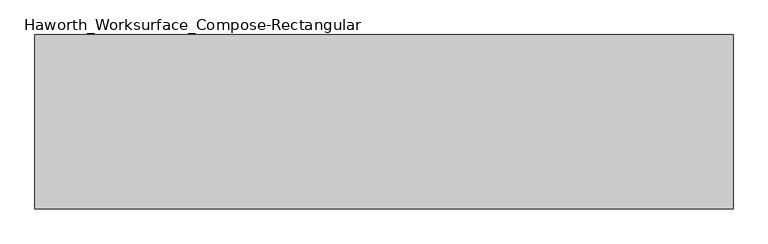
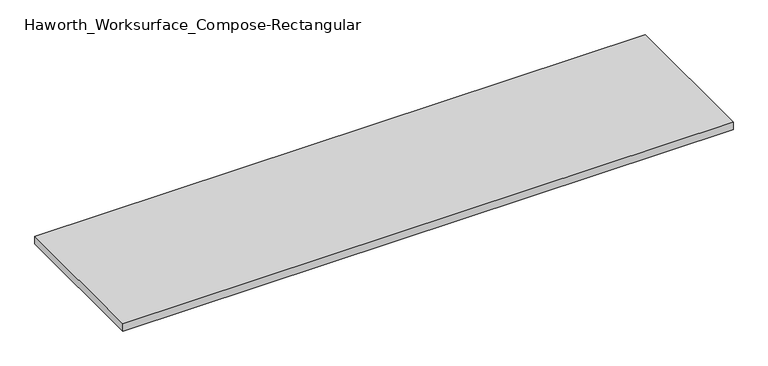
"""IFC4 building model written with IfcOpenShell, lengths in millimetres: furniture geometry, Haworth_Worksurface_Compose-Rectangular : 24'' x 96''."""

from ifc_helpers import new_model, si_unit, frame, origin, place, context, project, spatial, polyline, outline, extrude, source, transform, mapped, element, save


def haworth_worksurface_compose_rectangular_cbff0102(model_context):
    return source(origin(), model_context, "Body", "SweptSolid", [
        extrude(outline(polyline([(1219.2, -304.8), (-1219.2, -304.8), (-1219.2, 304.8), (1219.2, 304.8), (1219.2, -304.8)])), frame((0.0, 0.0, 706.4375), z_axis=(0.0, 0.0, 1.0), x_axis=(1.0, 0.0, 0.0)), (0.0, 0.0, 1.0), 30.1625),
    ])


if __name__ == "__main__":
    model = new_model("IFC4")
    model_context = context("Model", 3, world=origin())
    ifc_project = project(units=[si_unit("LENGTHUNIT", "METRE", prefix="MILLI")], contexts=[model_context])
    site = spatial("IfcSite", under=ifc_project)
    building = spatial("IfcBuilding", under=site)
    placement = place(None, origin())
    haworth_worksurface_compose_rectangular_shape = haworth_worksurface_compose_rectangular_cbff0102(model_context)
    element("IfcFurniture", 1, ObjectType="Haworth_Worksurface_Compose-Rectangular : 24'' x 96''", at=placement, inside=building, context=model_context, shape_type="MappedRepresentation", body=[
        mapped(haworth_worksurface_compose_rectangular_shape, transform((0.0, 0.0, 0.0), x_axis=(1.0, 0.0, 0.0), y_axis=(0.0, 1.0, 0.0), z_axis=(0.0, 0.0, 1.0))),
    ])
    save(model, "model.ifc")
